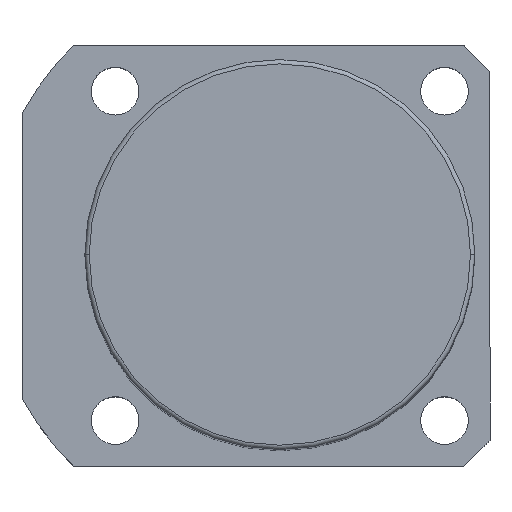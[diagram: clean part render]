
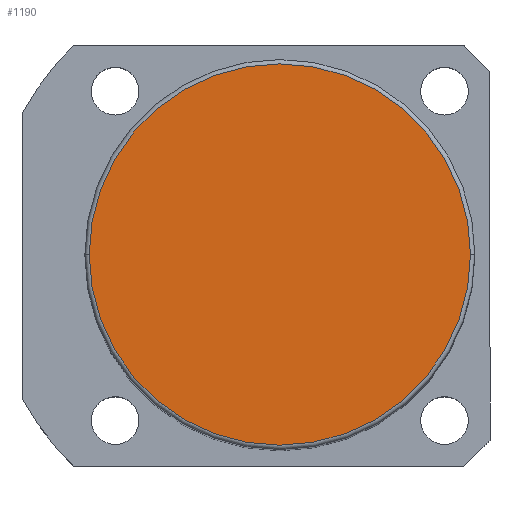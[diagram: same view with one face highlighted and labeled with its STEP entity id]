
A CAD part, top view. The second image highlights one B-rep face of the part: STEP entity #1190.
In plain terms, the highlighted planar face has unit normal (0, 0, 1).
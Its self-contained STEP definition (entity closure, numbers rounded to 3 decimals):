
#6 = ORIENTED_EDGE ( 'NONE', *, *, #1356, .T. ) ;
#50 = DIRECTION ( 'NONE',  ( 0., 0., 1. ) ) ;
#193 = DIRECTION ( 'NONE',  ( 1., 0., 0. ) ) ;
#206 = DIRECTION ( 'NONE',  ( 0., 0., 1. ) ) ;
#230 = VERTEX_POINT ( 'NONE', #672 ) ;
#339 = FACE_OUTER_BOUND ( 'NONE', #546, .T. ) ;
#358 = DIRECTION ( 'NONE',  ( 1., 0., 0. ) ) ;
#525 = CIRCLE ( 'NONE', #1065, 44. ) ;
#546 = EDGE_LOOP ( 'NONE', ( #755, #6 ) ) ;
#584 = EDGE_CURVE ( 'NONE', #230, #1496, #525, .T. ) ;
#643 = AXIS2_PLACEMENT_3D ( 'NONE', #1570, #1450, #738 ) ;
#672 = CARTESIAN_POINT ( 'NONE',  ( 44., 0., 191.5 ) ) ;
#738 = DIRECTION ( 'NONE',  ( 1., 0., 0. ) ) ;
#755 = ORIENTED_EDGE ( 'NONE', *, *, #584, .T. ) ;
#917 = CARTESIAN_POINT ( 'NONE',  ( 0., 0., 191.5 ) ) ;
#979 = AXIS2_PLACEMENT_3D ( 'NONE', #917, #206, #358 ) ;
#1065 = AXIS2_PLACEMENT_3D ( 'NONE', #1733, #50, #193 ) ;
#1190 = ADVANCED_FACE ( 'NONE', ( #339 ), #1564, .T. ) ;
#1356 = EDGE_CURVE ( 'NONE', #1496, #230, #1754, .T. ) ;
#1450 = DIRECTION ( 'NONE',  ( 0., 0., 1. ) ) ;
#1496 = VERTEX_POINT ( 'NONE', #1532 ) ;
#1532 = CARTESIAN_POINT ( 'NONE',  ( -44., 0., 191.5 ) ) ;
#1564 = PLANE ( 'NONE',  #643 ) ;
#1570 = CARTESIAN_POINT ( 'NONE',  ( 0., 0., 191.5 ) ) ;
#1733 = CARTESIAN_POINT ( 'NONE',  ( 0., 0., 191.5 ) ) ;
#1754 = CIRCLE ( 'NONE', #979, 44. ) ;
